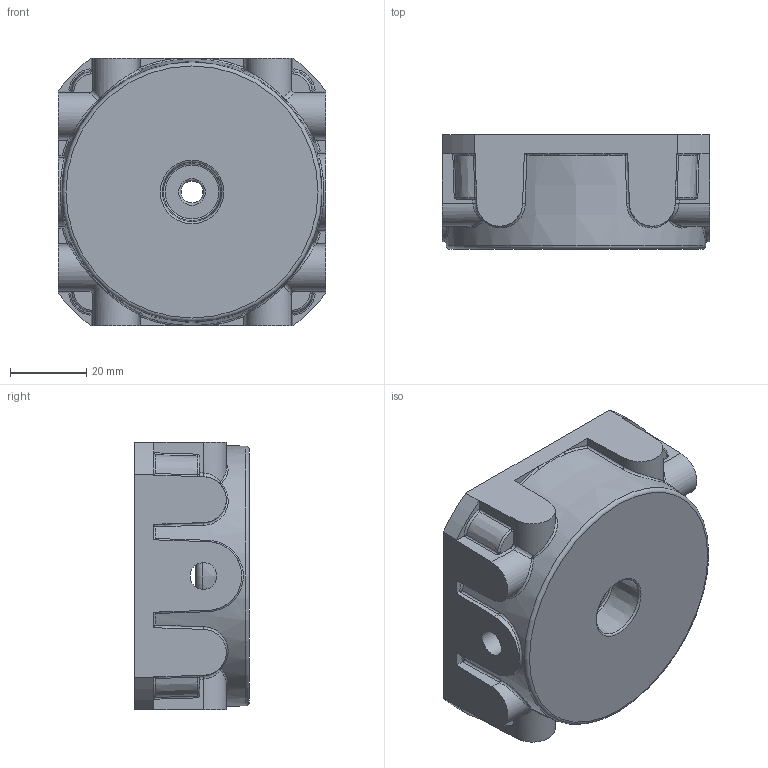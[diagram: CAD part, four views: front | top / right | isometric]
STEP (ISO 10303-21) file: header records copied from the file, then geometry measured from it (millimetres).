
FILE_DESCRIPTION(('STEP AP242'), '1');
FILE_NAME('扻豵鵨 4', '', ('UNSPECIFIED'), ('UNSPECIFIED'), 'C3D Converter', 'C3D Toolkit', '');
FILE_SCHEMA(('AP242_MANAGED_MODEL_BASED_3D_ENGINEERING_MIM_LF { 1 0 10303 442 1 1 4 }'));
Length unit declared in the file: millimetre
Bounding box: 70 x 30 x 70 mm (x, y, z)
Volume: 78431.2 mm3; surface area: 23669.2 mm2
Topology: 1 solids, 1 shells, 274 faces, 703 edges, 417 vertices
Faces by surface type: bspline 80, plane 70, cylinder 57, torus 50, cone 17
Full cylindrical faces by diameter (mm): 7 x2, 59 x1
Entity records: 16756 total; most frequent: CARTESIAN_POINT 11195, ORIENTED_EDGE 1346, DIRECTION 842, EDGE_CURVE 673, VERTEX_POINT 417, B_SPLINE_CURVE_WITH_KNOTS 354, AXIS2_PLACEMENT_3D 332, EDGE_LOOP 296
